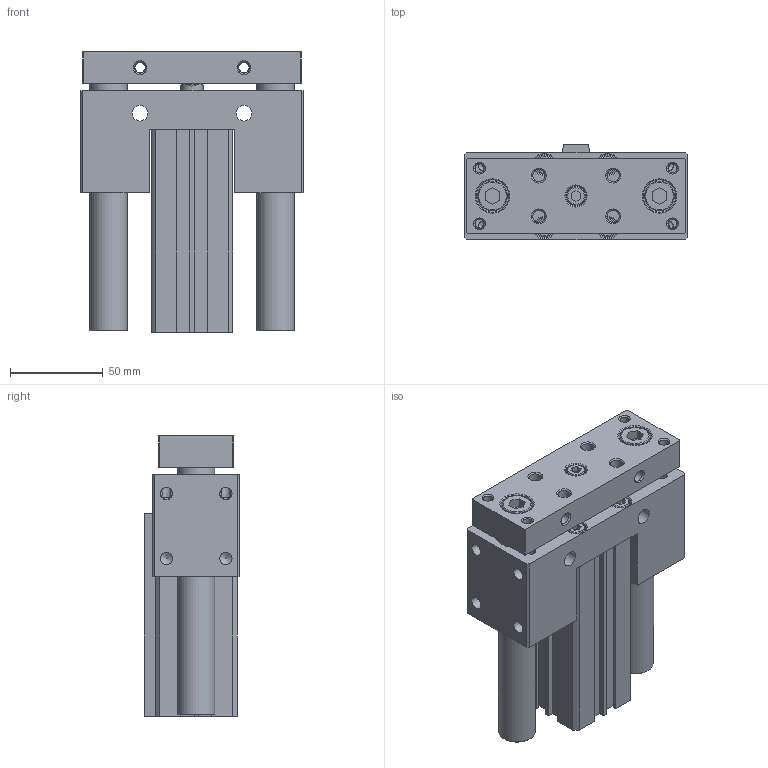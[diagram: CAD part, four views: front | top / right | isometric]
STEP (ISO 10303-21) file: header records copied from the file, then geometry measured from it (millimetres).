
FILE_DESCRIPTION((''),'2;1');
FILE_NAME('I:\3D電子目錄\氣缸\JCB\JCB\JCB32-S\JCB32x75-S.stp','2007-08-21T20:21:13',('Administrator'),(''),'Autodesk Inventor 11','Autodesk Inventor 11','');
FILE_SCHEMA(('AUTOMOTIVE_DESIGN { 1 0 10303 214 1 1 1 1 }'));
Length unit declared in the file: millimetre
Products named in the file (1): JCB32
Bounding box: 120 x 51.5 x 151 mm (x, y, z)
Volume: 521985 mm3; surface area: 120803.6 mm2
Topology: 3 solids, 3 shells, 320 faces, 754 edges, 489 vertices
Faces by surface type: plane 173, cylinder 53, bspline 45, cone 41, torus 8
Full cylindrical faces by diameter (mm): 2.2 x1, 5.1 x4, 6 x2, 6.647 x4, 8 x8, 10 x5, 11 x5, 12 x1, 13 x1, 16 x2, 17.5 x2, 20 x2, 22 x1, 23 x3, 34 x4, 36 x2
Entity records: 9272 total; most frequent: CARTESIAN_POINT 2540, DIRECTION 1340, ORIENTED_EDGE 1192, EDGE_CURVE 596, EDGE_LOOP 534, AXIS2_PLACEMENT_3D 492, VERTEX_POINT 458, VECTOR 356
